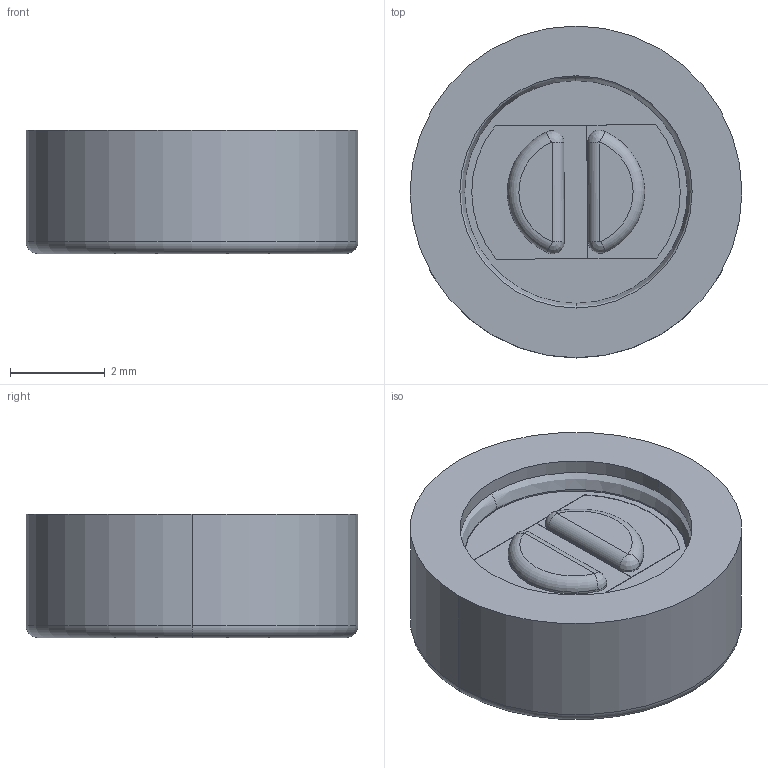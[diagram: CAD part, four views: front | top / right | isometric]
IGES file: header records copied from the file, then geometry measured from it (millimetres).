
Global section: file name: No Iges File Name specified; native system: Autodesk Inventor 2011; preprocessor: AutoDesk Inventor Iges Exporter R2011; author: Dunn; date: 20120111.083602; units: millimetre
Bounding box: 7 x 7 x 2.6 mm (x, y, z)
Volume: 85 mm3; surface area: 273.4 mm2
Topology: 2 solids, 8 shells, 80 faces, 158 edges, 96 vertices
Faces by surface type: plane 30, revolution 20, cylinder 16, torus 8, bspline 6
